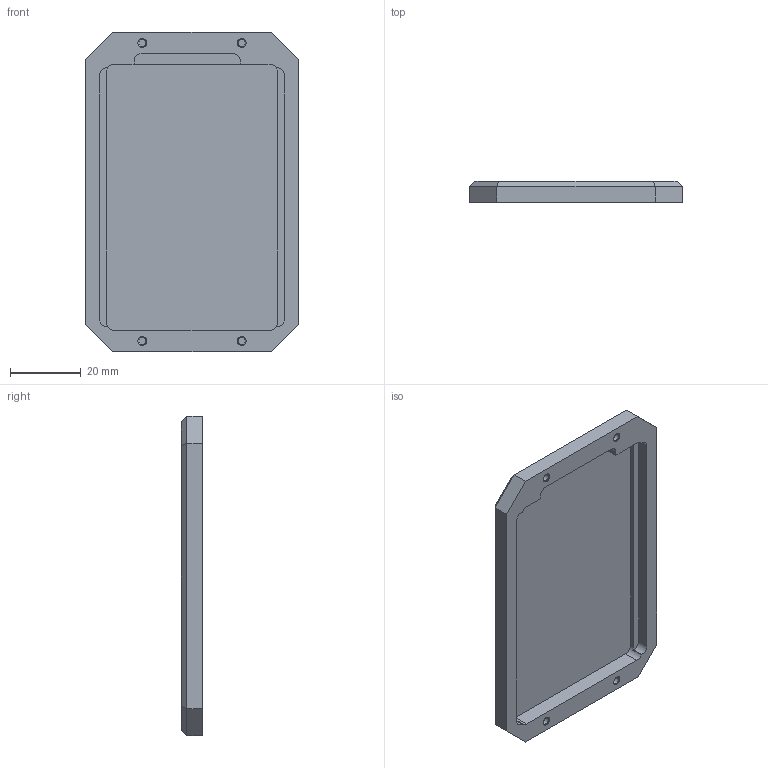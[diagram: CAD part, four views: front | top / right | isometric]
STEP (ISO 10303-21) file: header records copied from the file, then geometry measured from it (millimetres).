
FILE_DESCRIPTION(/* description */ ('VariCAD 2008 1.04 AP-203'),/* implementation_level */ '2;1');
FILE_NAME(/* name */ '0353-18-04',/* time_stamp */ '2008-07-02T16:08:44-06:00',/* author */ (''),/* organization */ (''),/* preprocessor_version */ 'ST-DEVELOPER v10',/* originating_system */ 'VariCAD 2008 1.04; kernel version (20071230)',/* authorisation */ '');
FILE_SCHEMA (('CONFIG_CONTROL_DESIGN'));
Length unit declared in the file: millimetre
Products named in the file (1): Part
Bounding box: 60 x 6 x 90 mm (x, y, z)
Volume: 13786.5 mm3; surface area: 13529 mm2
Topology: 5 solids, 5 shells, 98 faces, 223 edges, 140 vertices
Faces by surface type: plane 48, cylinder 42, cone 8
Entity records: 2825 total; most frequent: DIRECTION 519, CARTESIAN_POINT 467, ORIENTED_EDGE 446, EDGE_CURVE 223, AXIS2_PLACEMENT_3D 192, VERTEX_POINT 140, LINE 135, VECTOR 135
